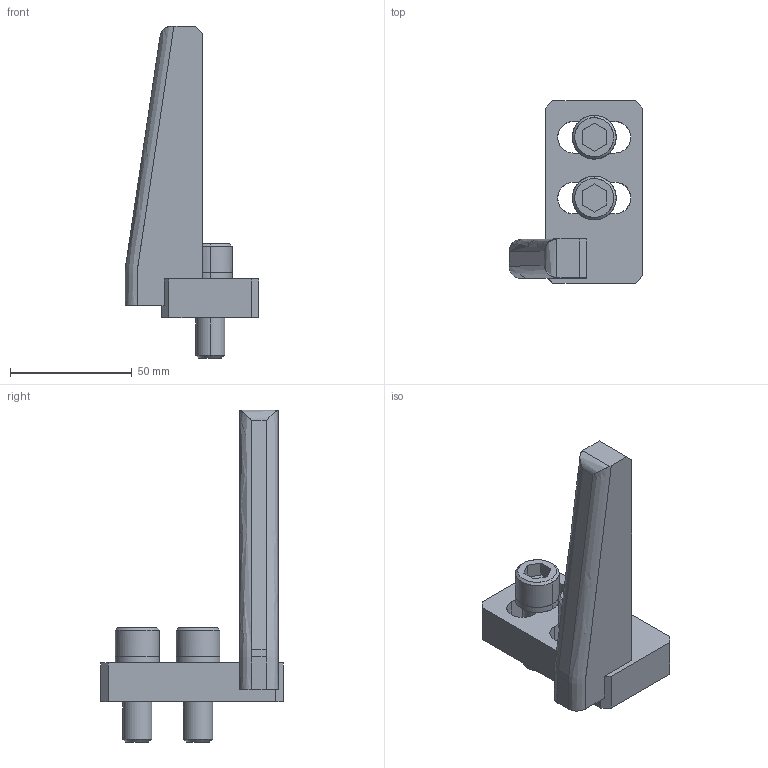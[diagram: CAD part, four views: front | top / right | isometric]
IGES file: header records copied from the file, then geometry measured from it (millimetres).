
Global section: file name: E:\UnigraphicsGraphicData\MISUMI_PRESS-PARTS\IGES\3d_nggbl-120-20-15_01485_r00.igs; native system: NX V5.0; preprocessor: UGS NX IGES V5.0; author: MISUMI; date: 20110105.162031; units: millimetre
Bounding box: 55 x 75 x 136.5 mm (x, y, z)
Surface area: 27388.6 mm2 (no closed solid volume)
Topology: 0 solids, 0 shells, 103 faces, 657 edges, 657 vertices
Faces by surface type: bspline 103
